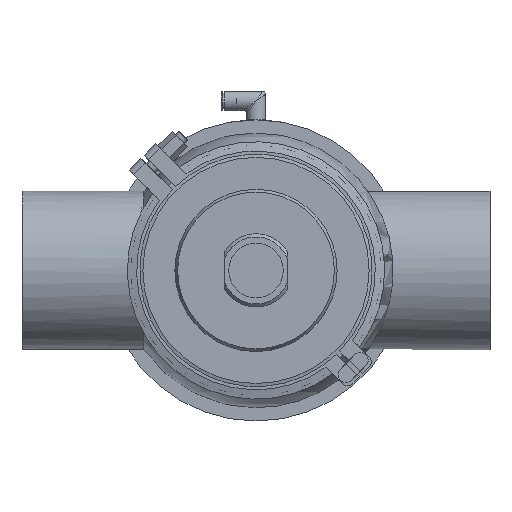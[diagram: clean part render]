
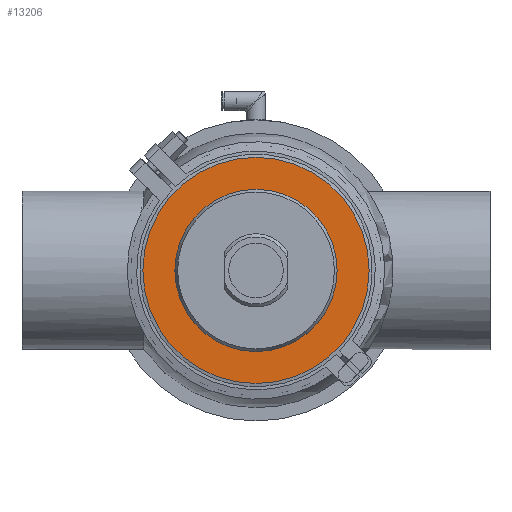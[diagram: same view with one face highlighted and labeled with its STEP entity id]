
A CAD part, front view. The second image highlights one B-rep face of the part: STEP entity #13206.
In plain terms, the highlighted planar face has unit normal (0, -1, 0).
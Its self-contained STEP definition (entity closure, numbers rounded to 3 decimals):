
#892 = ORIENTED_EDGE ( 'NONE', *, *, #17746, .F. ) ;
#936 = DIRECTION ( 'NONE',  ( 0., 0., 1. ) ) ;
#2821 = CIRCLE ( 'NONE', #20925, 52. ) ;
#3706 = PLANE ( 'NONE',  #13750 ) ;
#4436 = EDGE_LOOP ( 'NONE', ( #892 ) ) ;
#5723 = DIRECTION ( 'NONE',  ( 0., 0., 1. ) ) ;
#6747 = CARTESIAN_POINT ( 'NONE',  ( 0., -13., 0. ) ) ;
#6800 = CARTESIAN_POINT ( 'NONE',  ( 0., -13., 72.5 ) ) ;
#7300 = CARTESIAN_POINT ( 'NONE',  ( -72.5, -13., 0. ) ) ;
#7464 = CARTESIAN_POINT ( 'NONE',  ( 0., -13., 0. ) ) ;
#8344 = EDGE_LOOP ( 'NONE', ( #13840 ) ) ;
#8772 = VERTEX_POINT ( 'NONE', #19508 ) ;
#10664 = FACE_BOUND ( 'NONE', #8344, .T. ) ;
#12074 = AXIS2_PLACEMENT_3D ( 'NONE', #6747, #16828, #936 ) ;
#12285 = DIRECTION ( 'NONE',  ( 0., 0., -1. ) ) ;
#13206 = ADVANCED_FACE ( 'NONE', ( #10664, #19666 ), #3706, .T. ) ;
#13750 = AXIS2_PLACEMENT_3D ( 'NONE', #7300, #17592, #12285 ) ;
#13840 = ORIENTED_EDGE ( 'NONE', *, *, #17618, .T. ) ;
#13975 = VERTEX_POINT ( 'NONE', #6800 ) ;
#16828 = DIRECTION ( 'NONE',  ( 0., 1., 0. ) ) ;
#17592 = DIRECTION ( 'NONE',  ( 0., -1., 0. ) ) ;
#17618 = EDGE_CURVE ( 'NONE', #8772, #8772, #2821, .T. ) ;
#17746 = EDGE_CURVE ( 'NONE', #13975, #13975, #22031, .T. ) ;
#19508 = CARTESIAN_POINT ( 'NONE',  ( 0., -13., 52. ) ) ;
#19666 = FACE_OUTER_BOUND ( 'NONE', #4436, .T. ) ;
#20925 = AXIS2_PLACEMENT_3D ( 'NONE', #7464, #21551, #5723 ) ;
#21551 = DIRECTION ( 'NONE',  ( 0., 1., 0. ) ) ;
#22031 = CIRCLE ( 'NONE', #12074, 72.5 ) ;
